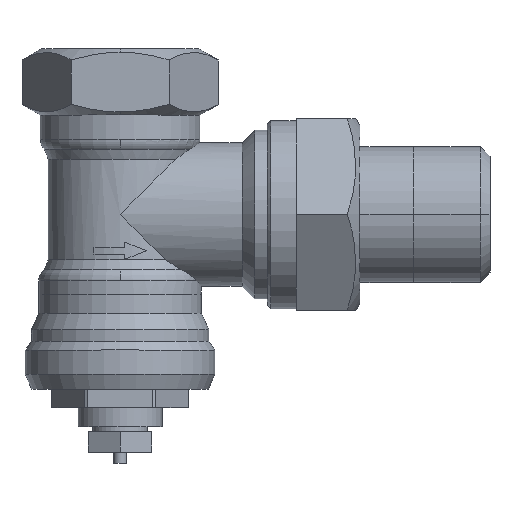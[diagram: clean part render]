
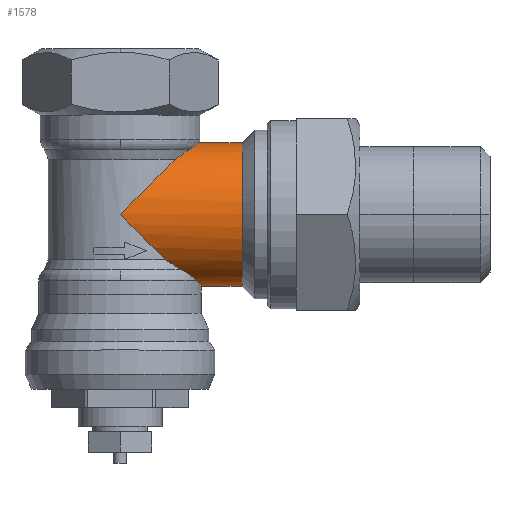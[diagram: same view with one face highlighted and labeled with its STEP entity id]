
A CAD part, top view. The second image highlights one B-rep face of the part: STEP entity #1578.
In plain terms, the highlighted cylindrical face has radius 11.25 mm (diameter 22.5 mm), a partial arc.
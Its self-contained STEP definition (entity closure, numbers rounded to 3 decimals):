
#991=CARTESIAN_POINT('',(8.689,-5.311,7.146));
#992=VERTEX_POINT('',#991);
#1000=CARTESIAN_POINT('',(10.909,-3.775,4.692));
#1001=VERTEX_POINT('',#1000);
#1002=CARTESIAN_POINT('',(8.689,-5.311,7.146));
#1003=CARTESIAN_POINT('',(8.778,-5.253,7.075));
#1004=CARTESIAN_POINT('',(8.867,-5.194,7.002));
#1005=CARTESIAN_POINT('',(9.543,-4.745,6.427));
#1006=CARTESIAN_POINT('',(10.085,-4.366,5.853));
#1007=CARTESIAN_POINT('',(10.676,-3.943,5.046));
#1008=CARTESIAN_POINT('',(10.795,-3.857,4.871));
#1009=CARTESIAN_POINT('',(10.909,-3.775,4.692));
#1010=B_SPLINE_CURVE_WITH_KNOTS('',3,(#1002,#1003,#1004,#1005,#1006,#1007,#1008,#1009),.UNSPECIFIED.,.F.,.U.,(4,2,2,4),(2.124,2.495,4.989,5.655),.UNSPECIFIED.);
#1011=EDGE_CURVE('',#992,#1001,#1010,.T.);
#1045=CARTESIAN_POINT('',(7.089,-21.089,8.736));
#1046=VERTEX_POINT('',#1045);
#1054=CARTESIAN_POINT('',(0.,-14.,11.25));
#1055=VERTEX_POINT('',#1054);
#1056=CARTESIAN_POINT('',(0.0,-14.0,0.));
#1057=DIRECTION('',(-0.707,-0.707,0.));
#1058=DIRECTION('',(0.707,-0.707,0.));
#1059=AXIS2_PLACEMENT_3D('',#1056,#1057,#1058);
#1060=ELLIPSE('',#1059,15.91,11.25);
#1061=EDGE_CURVE('',#1046,#1055,#1060,.T.);
#1063=CARTESIAN_POINT('',(0.0,-14.0,0.));
#1064=DIRECTION('',(-0.707,0.707,0.));
#1065=DIRECTION('',(-0.707,-0.707,0.));
#1066=AXIS2_PLACEMENT_3D('',#1063,#1064,#1065);
#1067=ELLIPSE('',#1066,15.91,11.25);
#1068=EDGE_CURVE('',#1055,#992,#1067,.T.);
#1096=CARTESIAN_POINT('',(9.468,-22.644,7.2));
#1097=VERTEX_POINT('',#1096);
#1105=CARTESIAN_POINT('',(9.468,-22.644,7.2));
#1106=CARTESIAN_POINT('',(9.111,-22.396,7.498));
#1107=CARTESIAN_POINT('',(8.733,-22.138,7.776));
#1108=CARTESIAN_POINT('',(7.937,-21.614,8.29));
#1109=CARTESIAN_POINT('',(7.517,-21.347,8.526));
#1110=CARTESIAN_POINT('',(7.089,-21.089,8.736));
#1111=B_SPLINE_CURVE_WITH_KNOTS('',3,(#1105,#1106,#1107,#1108,#1109,#1110),.UNSPECIFIED.,.F.,.U.,(4,2,4),(2.142,3.625,5.146),.UNSPECIFIED.);
#1112=EDGE_CURVE('',#1097,#1046,#1111,.T.);
#1132=CARTESIAN_POINT('',(12.016,-24.411,4.262));
#1133=VERTEX_POINT('',#1132);
#1141=CARTESIAN_POINT('',(12.016,-24.411,4.262));
#1142=CARTESIAN_POINT('',(11.778,-24.138,4.93));
#1143=CARTESIAN_POINT('',(11.449,-23.818,5.527));
#1144=CARTESIAN_POINT('',(10.626,-23.219,6.468));
#1145=CARTESIAN_POINT('',(10.179,-22.953,6.822));
#1146=CARTESIAN_POINT('',(9.598,-22.698,7.135));
#1147=CARTESIAN_POINT('',(9.533,-22.671,7.168));
#1148=CARTESIAN_POINT('',(9.468,-22.644,7.2));
#1149=B_SPLINE_CURVE_WITH_KNOTS('',3,(#1141,#1142,#1143,#1144,#1145,#1146,#1147,#1148),.UNSPECIFIED.,.F.,.U.,(4,2,2,4),(-16.587,-14.09,-12.005,-11.745),.UNSPECIFIED.);
#1150=EDGE_CURVE('',#1133,#1097,#1149,.T.);
#1212=CARTESIAN_POINT('',(12.75,-25.25,0.));
#1213=VERTEX_POINT('',#1212);
#1220=CARTESIAN_POINT('',(12.75,-25.25,0.));
#1221=CARTESIAN_POINT('',(12.75,-25.25,0.756));
#1222=CARTESIAN_POINT('',(12.682,-25.173,1.523));
#1223=CARTESIAN_POINT('',(12.422,-24.877,2.957));
#1224=CARTESIAN_POINT('',(12.242,-24.671,3.627));
#1225=CARTESIAN_POINT('',(12.016,-24.411,4.262));
#1226=B_SPLINE_CURVE_WITH_KNOTS('',3,(#1220,#1221,#1222,#1223,#1224,#1225),.UNSPECIFIED.,.F.,.U.,(4,2,4),(56.207,58.475,60.546),.UNSPECIFIED.);
#1227=EDGE_CURVE('',#1213,#1133,#1226,.T.);
#1500=CARTESIAN_POINT('',(19.15,-25.25,0.));
#1501=VERTEX_POINT('',#1500);
#1508=CARTESIAN_POINT('',(19.15,-2.75,0.));
#1509=VERTEX_POINT('',#1508);
#1527=CARTESIAN_POINT('',(-0.344,-14.0,0.));
#1528=DIRECTION('',(-1.0,0.,0.));
#1529=DIRECTION('',(0.0,-1.0,0.0));
#1530=AXIS2_PLACEMENT_3D('',#1527,#1528,#1529);
#1531=CYLINDRICAL_SURFACE('',#1530,11.25);
#1532=CARTESIAN_POINT('',(19.15,-25.25,0.));
#1533=DIRECTION('',(-1.0,0.0,0.0));
#1534=VECTOR('',#1533,6.4);
#1535=LINE('',#1532,#1534);
#1536=EDGE_CURVE('',#1501,#1213,#1535,.T.);
#1537=ORIENTED_EDGE('',*,*,#1536,.F.);
#1538=CARTESIAN_POINT('',(19.15,-14.0,0.));
#1539=DIRECTION('',(-1.0,0.0,0.0));
#1540=DIRECTION('',(0.0,-1.0,0.0));
#1541=AXIS2_PLACEMENT_3D('',#1538,#1539,#1540);
#1542=CIRCLE('',#1541,11.25);
#1543=EDGE_CURVE('',#1501,#1509,#1542,.T.);
#1544=ORIENTED_EDGE('',*,*,#1543,.T.);
#1545=CARTESIAN_POINT('',(12.44,-2.75,0.));
#1546=VERTEX_POINT('',#1545);
#1547=CARTESIAN_POINT('',(12.44,-2.75,0.));
#1548=DIRECTION('',(1.0,0.0,0.0));
#1549=VECTOR('',#1548,6.71);
#1550=LINE('',#1547,#1549);
#1551=EDGE_CURVE('',#1546,#1509,#1550,.T.);
#1552=ORIENTED_EDGE('',*,*,#1551,.F.);
#1553=CARTESIAN_POINT('',(10.909,-3.775,4.692));
#1554=CARTESIAN_POINT('',(11.004,-3.728,4.589));
#1555=CARTESIAN_POINT('',(11.096,-3.679,4.479));
#1556=CARTESIAN_POINT('',(11.553,-3.425,3.875));
#1557=CARTESIAN_POINT('',(11.83,-3.232,3.317));
#1558=CARTESIAN_POINT('',(12.15,-2.992,2.351));
#1559=CARTESIAN_POINT('',(12.242,-2.917,1.973));
#1560=CARTESIAN_POINT('',(12.357,-2.822,1.301));
#1561=CARTESIAN_POINT('',(12.392,-2.792,1.011));
#1562=CARTESIAN_POINT('',(12.424,-2.763,0.57));
#1563=CARTESIAN_POINT('',(12.432,-2.757,0.421));
#1564=CARTESIAN_POINT('',(12.439,-2.751,0.181));
#1565=CARTESIAN_POINT('',(12.44,-2.75,0.091));
#1566=CARTESIAN_POINT('',(12.44,-2.75,0.));
#1567=B_SPLINE_CURVE_WITH_KNOTS('',3,(#1553,#1554,#1555,#1556,#1557,#1558,#1559,#1560,#1561,#1562,#1563,#1564,#1565,#1566),.UNSPECIFIED.,.F.,.U.,(4,2,2,2,2,2,4),(-20.543,-20.14,-18.466,-17.457,-16.713,-16.338,-16.112),.UNSPECIFIED.);
#1568=EDGE_CURVE('',#1001,#1546,#1567,.T.);
#1569=ORIENTED_EDGE('',*,*,#1568,.F.);
#1570=ORIENTED_EDGE('',*,*,#1011,.F.);
#1571=ORIENTED_EDGE('',*,*,#1068,.F.);
#1572=ORIENTED_EDGE('',*,*,#1061,.F.);
#1573=ORIENTED_EDGE('',*,*,#1112,.F.);
#1574=ORIENTED_EDGE('',*,*,#1150,.F.);
#1575=ORIENTED_EDGE('',*,*,#1227,.F.);
#1576=EDGE_LOOP('',(#1537,#1544,#1552,#1569,#1570,#1571,#1572,#1573,#1574,#1575));
#1577=FACE_OUTER_BOUND('',#1576,.T.);
#1578=ADVANCED_FACE('',(#1577),#1531,.T.);
